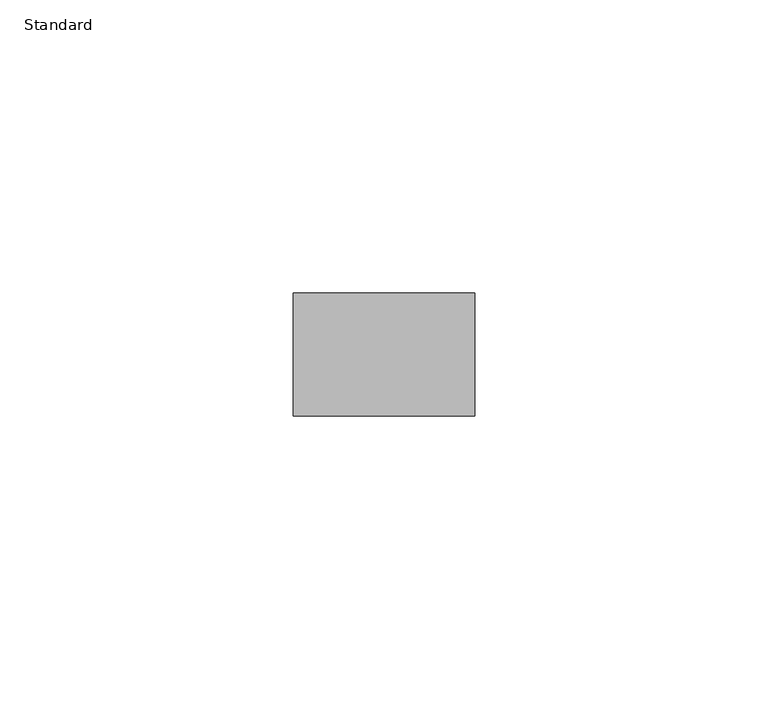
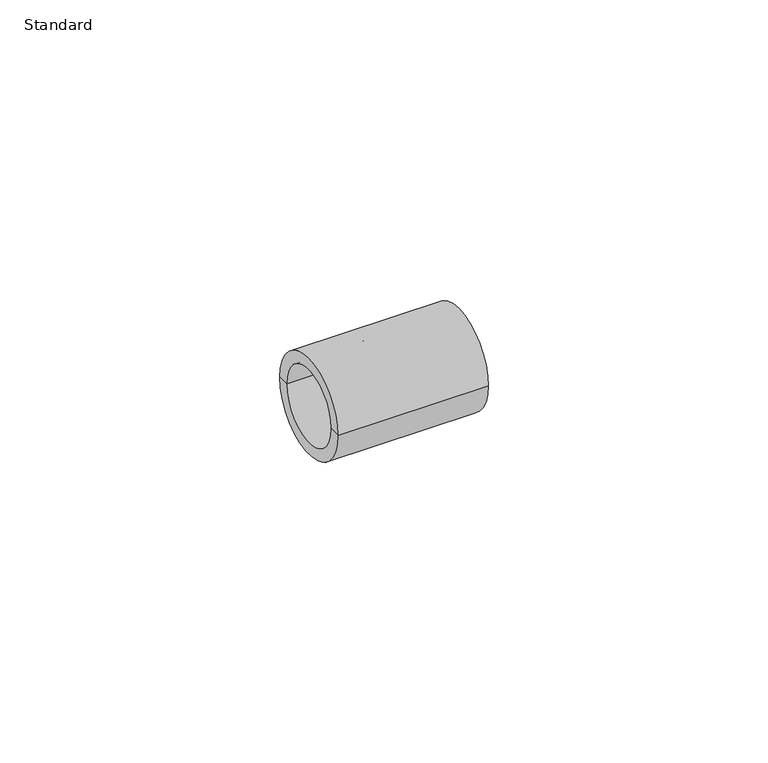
"""IFC4 building model written with IfcOpenShell, lengths in millimetres: pipe fitting geometry, Durapipe_PipeFitting_PVC_Socket : Standard."""

from ifc_helpers import new_model, si_unit, frame, origin, place, context, project, spatial, polyline, circle_curve, source, transform, mapped, element, save
from ifc_brep_helpers import plane_surface, cylinder_surface, revolved_surface, advanced_brep


def standard_f582b1da(model_context):
    return source(origin(), model_context, "Body", "AdvancedBrep", [
        advanced_brep(
        [(-15.5, -10.5, 0.0), (-15.5, 10.5, 0.0), (15.5, 10.5, 0.0), (15.5, -10.5, 0.0), (-15.5, -8.0, 0.0), (-15.5, 8.0, 0.0), (1.5, -5.0, 0.0), (1.5, 5.0, 0.0), (-1.5, 5.0, 0.0), (-1.5, -5.0, 0.0), (15.5, 8.0, 0.0), (15.5, -8.0, 0.0), (-1.5, -8.0, 0.0), (-1.5, 8.0, 0.0), (1.5, -8.0, 0.0), (1.5, 8.0, 0.0)],
        [
            (0, 1, circle_curve(frame((-15.5, 0.0, 0.0), z_axis=(1.0, 0.0, 0.0), x_axis=(0.0, 1.0, 0.0)), 10.5)),
            (1, 2),
            (2, 3, circle_curve(frame((15.5, 0.0, 0.0), z_axis=(-1.0, 0.0, 0.0), x_axis=(0.0, 1.0, 0.0)), 10.5)),
            (3, 0),
            (1, 0, circle_curve(frame((-15.5, 0.0, 0.0), z_axis=(1.0, 0.0, 0.0), x_axis=(0.0, 1.0, 0.0)), 10.5)),
            (3, 2, circle_curve(frame((15.5, 0.0, 0.0), z_axis=(-1.0, 0.0, 0.0), x_axis=(0.0, 1.0, 0.0)), 10.5)),
            (4, 5, circle_curve(frame((-15.5, 0.0, 0.0), z_axis=(1.0, 0.0, 0.0), x_axis=(0.0, 1.0, 0.0)), 8.0)),
            (5, 1),
            (0, 4),
            (5, 4, circle_curve(frame((-15.5, 0.0, 0.0), z_axis=(1.0, 0.0, 0.0), x_axis=(0.0, 1.0, 0.0)), 8.0)),
            (6, 7, circle_curve(frame((1.5, 0.0, 0.0), z_axis=(1.0, 0.0, 0.0), x_axis=(0.0, 1.0, 0.0)), 5.0)),
            (7, 8),
            (8, 9, circle_curve(frame((-1.5, 0.0, 0.0), z_axis=(-1.0, 0.0, 0.0), x_axis=(0.0, 1.0, 0.0)), 5.0)),
            (9, 6),
            (7, 6, circle_curve(frame((1.5, 0.0, 0.0), z_axis=(1.0, 0.0, 0.0), x_axis=(0.0, 1.0, 0.0)), 5.0)),
            (9, 8, circle_curve(frame((-1.5, 0.0, 0.0), z_axis=(-1.0, 0.0, 0.0), x_axis=(0.0, 1.0, 0.0)), 5.0)),
            (2, 10),
            (10, 11, circle_curve(frame((15.5, 0.0, 0.0), z_axis=(-1.0, 0.0, 0.0), x_axis=(0.0, 1.0, 0.0)), 8.0)),
            (11, 3),
            (11, 10, circle_curve(frame((15.5, 0.0, 0.0), z_axis=(-1.0, 0.0, 0.0), x_axis=(0.0, 1.0, 0.0)), 8.0)),
            (12, 13, circle_curve(frame((-1.5, 0.0, 0.0), z_axis=(1.0, 0.0, 0.0), x_axis=(0.0, 1.0, 0.0)), 8.0)),
            (13, 5),
            (4, 12),
            (13, 12, circle_curve(frame((-1.5, 0.0, 0.0), z_axis=(1.0, 0.0, 0.0), x_axis=(0.0, 1.0, 0.0)), 8.0)),
            (8, 13),
            (12, 9),
            (14, 15, circle_curve(frame((1.5, 0.0, 0.0), z_axis=(1.0, 0.0, 0.0), x_axis=(0.0, 1.0, 0.0)), 8.0)),
            (15, 7),
            (6, 14),
            (15, 14, circle_curve(frame((1.5, 0.0, 0.0), z_axis=(1.0, 0.0, 0.0), x_axis=(0.0, 1.0, 0.0)), 8.0)),
            (10, 15),
            (14, 11),
        ],
        [
            cylinder_surface(frame((-15.5, 0.0, 0.0), z_axis=(-1.0, 0.0, 0.0), x_axis=(0.0, 1.0, 0.0)), 10.5),
            plane_surface(frame((-15.5, 0.0, 0.0), z_axis=(-1.0, 0.0, 0.0), x_axis=(0.0, 1.0, 0.0))),
            revolved_surface(polyline([(-1.5, 5.0, 0.0), (1.5, 5.0, 0.0)]), (-15.5, 0.0, 0.0), (-1.0, 0.0, 0.0)),
            plane_surface(frame((15.5, 0.0, 0.0), z_axis=(1.0, 0.0, 0.0), x_axis=(0.0, 1.0, 0.0))),
            revolved_surface(polyline([(-15.5, 8.0, 0.0), (-1.5, 8.0, 0.0)]), (-15.5, 0.0, 0.0), (-1.0, 0.0, 0.0)),
            plane_surface(frame((-1.5, 0.0, 0.0), z_axis=(-1.0, 0.0, 0.0), x_axis=(0.0, 1.0, 0.0))),
            plane_surface(frame((1.5, 0.0, 0.0), z_axis=(1.0, 0.0, 0.0), x_axis=(0.0, 1.0, 0.0))),
            revolved_surface(polyline([(1.5, 8.0, 0.0), (15.5, 8.0, 0.0)]), (-15.5, 0.0, 0.0), (-1.0, 0.0, 0.0)),
        ],
        [
            (0, [[1, 2, 3, 4]]),
            (0, [[5, -4, 6, -2]]),
            (1, [[7, 8, -1, 9]]),
            (1, [[10, -9, -5, -8]]),
            (2, [[11, 12, 13, 14]]),
            (2, [[15, -14, 16, -12]]),
            (3, [[-3, 17, 18, 19]]),
            (3, [[-6, -19, 20, -17]]),
            (4, [[21, 22, -7, 23]]),
            (4, [[24, -23, -10, -22]]),
            (5, [[-13, 25, -21, 26]]),
            (5, [[-16, -26, -24, -25]]),
            (6, [[27, 28, -11, 29]]),
            (6, [[30, -29, -15, -28]]),
            (7, [[-18, 31, -27, 32]]),
            (7, [[-20, -32, -30, -31]]),
        ],
    ),
    ])


if __name__ == "__main__":
    model = new_model("IFC4")
    model_context = context("Model", 3, world=origin())
    ifc_project = project(units=[si_unit("LENGTHUNIT", "METRE", prefix="MILLI")], contexts=[model_context])
    site = spatial("IfcSite", under=ifc_project)
    building = spatial("IfcBuilding", under=site)
    placement = place(None, origin())
    standard_shape = standard_f582b1da(model_context)
    element("IfcPipeFitting", 1, ObjectType="Durapipe_PipeFitting_PVC_Socket : Standard", at=placement, inside=building, context=model_context, shape_type="MappedRepresentation", body=[
        mapped(standard_shape, transform((0.0, 0.0, 0.0), x_axis=(1.0, 0.0, 0.0), y_axis=(0.0, 1.0, 0.0), z_axis=(0.0, 0.0, 1.0))),
    ])
    save(model, "model.ifc")
